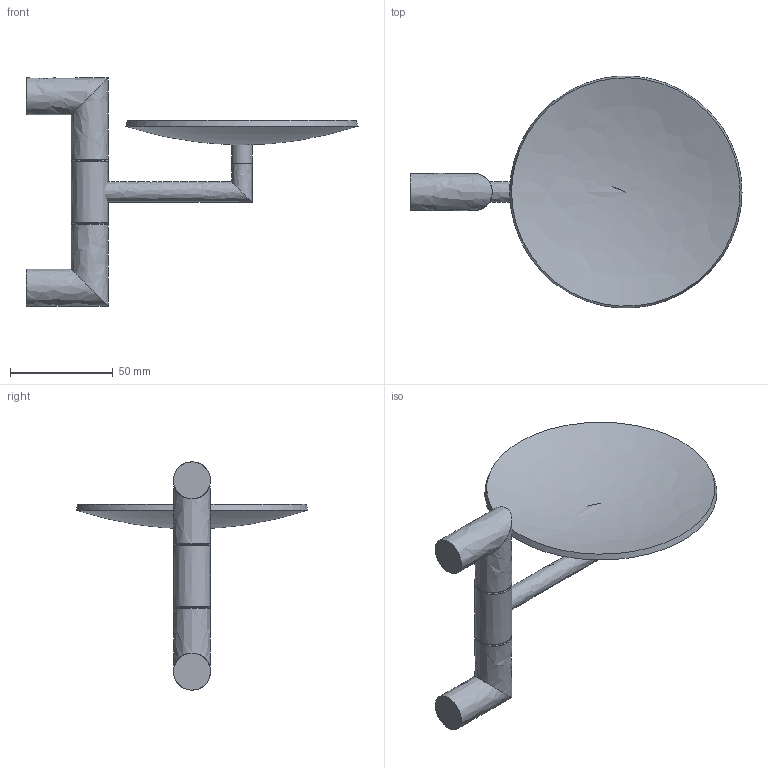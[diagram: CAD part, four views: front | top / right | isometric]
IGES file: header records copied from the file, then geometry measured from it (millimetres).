
Global section: file name: /Users/f/Desktop/I/AM125.igs; native system: Rhinoceros ( Jul 22 2010 ); preprocessor: Trout Lake IGES 012 Jul 22 2010; date: 100723.150503; units: millimetre
Bounding box: 161.5 x 112.74 x 111 mm (x, y, z)
Surface area: 34938.3 mm2 (no closed solid volume)
Topology: 0 solids, 0 shells, 25 faces, 387 edges, 378 vertices
Faces by surface type: bspline 25
